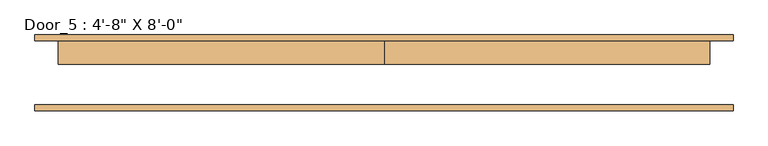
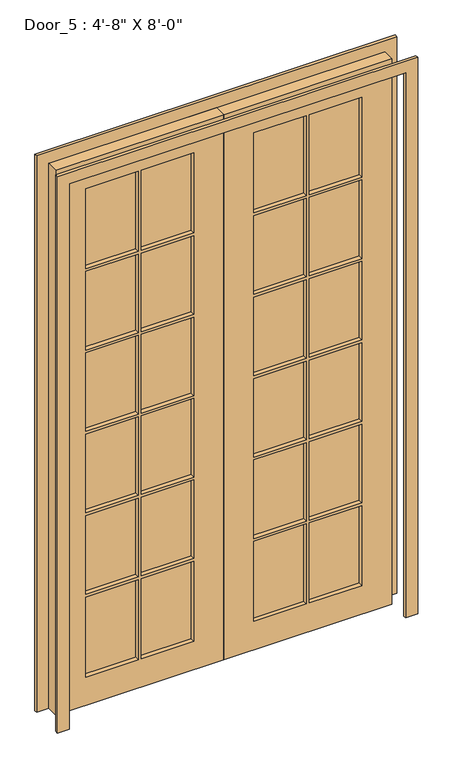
"""IFC4 building model written with IfcOpenShell, lengths in millimetres: door geometry."""

import ifcopenshell
import ifcopenshell.guid

model = None  # the IFC model being written
_history = None  # IfcOwnerHistory: only IFC2X3 demands one
_inside = {}  # id of a spatial element -> (the spatial element, [elements in it])
_under = {}  # id of a project, library or spatial element -> (it, [spatial elements below it])
_declared = {}  # id of a project -> (the project, [libraries it declares])
_typed = {}  # id of a type object -> (the type object, [elements of that type])
_made_of = {}  # id of a material, layer set ... -> (it, [elements and type objects made of it])


def new_model(schema):
    """Start an empty IFC model of exactly this schema.

    Asked for "IFC4X3", IfcOpenShell would pick the latest addendum, in which some entities
    have other attributes; the version numbers below select the first issue.
    IFC2X3 requires an IfcOwnerHistory on every rooted entity: one is made here for all.
    """
    global model, _history
    if schema == "IFC4X3":
        model = ifcopenshell.file(schema_version=(4, 3, 0, 0))
    else:
        model = ifcopenshell.file(schema=schema)
    _inside.clear()
    _under.clear()
    _declared.clear()
    _typed.clear()
    _made_of.clear()
    _history = None
    if model.schema == "IFC2X3":
        org = make("IfcOrganization", Name="unknown")
        user = make(
            "IfcPersonAndOrganization",
            ThePerson=make("IfcPerson", FamilyName="unknown"),
            TheOrganization=org,
        )
        app = make(
            "IfcApplication",
            ApplicationDeveloper=org,
            Version="unknown",
            ApplicationFullName="unknown",
            ApplicationIdentifier="unknown",
        )
        _history = make(
            "IfcOwnerHistory",
            OwningUser=user,
            OwningApplication=app,
            ChangeAction="ADDED",
            CreationDate=0,
        )
    return model


def make(cls, **values):
    """One entity of the class cls with the attributes given. An attribute that is None is left unset."""
    return model.create_entity(
        cls, **{name: value for name, value in values.items() if value is not None}
    )


def rooted(cls, **values):
    """An entity with a GlobalId (a new one), such as an element, a storey or a relation."""
    return make(cls, GlobalId=ifcopenshell.guid.new(), OwnerHistory=_history, **values)


def si_unit(unit_type, name, prefix=None):
    """IfcSIUnit, for example si_unit("LENGTHUNIT", "METRE", prefix="MILLI")."""
    return make("IfcSIUnit", UnitType=unit_type, Prefix=prefix, Name=name)


def assignment(units):
    """IfcUnitAssignment: the units of a project."""
    return None if units is None else make("IfcUnitAssignment", Units=units)


def point(xyz):
    """IfcCartesianPoint."""
    return None if xyz is None else make("IfcCartesianPoint", Coordinates=xyz)


def direction(xyz):
    """IfcDirection."""
    return None if xyz is None else make("IfcDirection", DirectionRatios=xyz)


def frame(location, z_axis=None, x_axis=None):
    """IfcAxis2Placement3D, a coordinate frame: its origin and axes. An axis left out is left unset."""
    return make(
        "IfcAxis2Placement3D",
        Location=point(location),
        Axis=direction(z_axis),
        RefDirection=direction(x_axis),
    )


def origin():
    """The frame at (0, 0, 0) with its axes left unset."""
    return frame((0.0, 0.0, 0.0))


def place(relative_to, where):
    """IfcLocalPlacement: puts the frame where relative to a parent placement (None: the world)."""
    return make(
        "IfcLocalPlacement", PlacementRelTo=relative_to, RelativePlacement=where
    )


def context(
    kind, dimensions, precision=None, world=None, true_north=None, identifier=None
):
    """IfcGeometricRepresentationContext, for example the 3D "Model" context."""
    return make(
        "IfcGeometricRepresentationContext",
        ContextIdentifier=identifier,
        ContextType=kind,
        CoordinateSpaceDimension=dimensions,
        Precision=precision,
        WorldCoordinateSystem=world,
        TrueNorth=true_north,
    )


def project(units=None, contexts=None):
    """IfcProject with its units and contexts."""
    return rooted(
        "IfcProject",
        Name="project",
        RepresentationContexts=contexts,
        UnitsInContext=assignment(units),
    )


def spatial(cls, under=None, at=None, **own):
    """A site, building, storey or space (cls), placed at a placement, below another one or the project."""
    s = rooted(cls, ObjectPlacement=at, **own)
    if under is not None:
        _under.setdefault(under.id(), (under, []))[1].append(s)
    return s


def polyline(points):
    """IfcPolyline through the points."""
    return make("IfcPolyline", Points=[point(p) for p in points])


def outline(outer, holes=None, kind="AREA"):
    """IfcArbitraryClosedProfileDef: a profile drawn as a closed curve; with holes, ...WithVoids."""
    if holes is None:
        return make("IfcArbitraryClosedProfileDef", ProfileType=kind, OuterCurve=outer)
    return make(
        "IfcArbitraryProfileDefWithVoids",
        ProfileType=kind,
        OuterCurve=outer,
        InnerCurves=holes,
    )


def extrude(swept, where, along, depth):
    """IfcExtrudedAreaSolid: the profile swept, set in the frame where, extruded along a direction by depth."""
    return make(
        "IfcExtrudedAreaSolid",
        SweptArea=swept,
        Position=where,
        ExtrudedDirection=direction(along),
        Depth=depth,
    )


def shape(context_of_items, identifier, shape_type, items):
    """IfcShapeRepresentation: the items that make up one representation, for example the "Body"."""
    return make(
        "IfcShapeRepresentation",
        ContextOfItems=context_of_items,
        RepresentationIdentifier=identifier,
        RepresentationType=shape_type,
        Items=items,
    )


def source(mapping_origin, context_of_items, identifier, shape_type, items):
    """IfcRepresentationMap: a shape defined once, which mapped items show again and again."""
    return make(
        "IfcRepresentationMap",
        MappingOrigin=mapping_origin,
        MappedRepresentation=shape(context_of_items, identifier, shape_type, items),
    )


def transform(
    local_origin,
    x_axis=None,
    y_axis=None,
    z_axis=None,
    scale=None,
    scale2=None,
    scale3=None,
    uniform=True,
):
    """IfcCartesianTransformationOperator3D, or its non-uniform kind. x_axis, y_axis, z_axis: its Axis1, 2, 3."""
    if uniform:
        return make(
            "IfcCartesianTransformationOperator3D",
            Axis1=direction(x_axis),
            Axis2=direction(y_axis),
            LocalOrigin=point(local_origin),
            Scale=scale,
            Axis3=direction(z_axis),
        )
    return make(
        "IfcCartesianTransformationOperator3DnonUniform",
        Axis1=direction(x_axis),
        Axis2=direction(y_axis),
        LocalOrigin=point(local_origin),
        Scale=scale,
        Axis3=direction(z_axis),
        Scale2=scale2,
        Scale3=scale3,
    )


def mapped(mapping_source, mapping_target):
    """IfcMappedItem: shows the shape of a source again, moved by a transform."""
    return make(
        "IfcMappedItem", MappingSource=mapping_source, MappingTarget=mapping_target
    )


def made_of(thing, what):
    """Note that an element or type object is made of a material, layer set ...; save() writes the relation."""
    if what is not None:
        _made_of.setdefault(what.id(), (what, []))[1].append(thing)
    return thing


def element(
    cls,
    number,
    at=None,
    inside=None,
    cuts=None,
    type_object=None,
    material=None,
    context=None,
    identifier="Body",
    shape_type=None,
    held_by="IfcProductDefinitionShape",
    body=None,
    shapes=None,
    **own,
):
    """One element of the class cls, such as IfcWall. Its Tag is "e" and its number.

    at: its placement. inside: the storey or other place that contains it. cuts: it is an
    opening in that element (IfcRelVoidsElement). A single representation is given by context,
    identifier, shape_type and body (its items); several are given by shapes. held_by: the class
    of the entity that holds the representations. save() writes the other relations.
    """
    e = rooted(cls, Tag="e%d" % number, ObjectPlacement=at, **own)
    if body is not None:
        shapes = [shape(context, identifier, shape_type, body)]
    if shapes is not None:
        e.Representation = make(held_by, Representations=shapes)
    if inside is not None:
        _inside.setdefault(inside.id(), (inside, []))[1].append(e)
    if cuts is not None:
        rooted(
            "IfcRelVoidsElement", RelatingBuildingElement=cuts, RelatedOpeningElement=e
        )
    if type_object is not None:
        _typed.setdefault(type_object.id(), (type_object, []))[1].append(e)
    return made_of(e, material)


def aggregate(whole, parts):
    """IfcRelAggregates: a whole, such as a stair, and the parts it consists of."""
    return rooted("IfcRelAggregates", RelatingObject=whole, RelatedObjects=parts)


def save(model, path):
    """Write the relations noted so far, then the file.

    IfcRelAggregates (storeys below a building ...), IfcRelContainedInSpatialStructure (elements
    in a storey), IfcRelDefinesByType, IfcRelAssociatesMaterial and IfcRelDeclares: one each for
    every whole, place, type object, material and project.
    """
    for whole, parts in _under.values():
        aggregate(whole, parts)
    for where, things in _inside.values():
        rooted(
            "IfcRelContainedInSpatialStructure",
            RelatedElements=things,
            RelatingStructure=where,
        )
    for kind, things in _typed.values():
        rooted("IfcRelDefinesByType", RelatedObjects=things, RelatingType=kind)
    for what, things in _made_of.values():
        rooted("IfcRelAssociatesMaterial", RelatedObjects=things, RelatingMaterial=what)
    for by, libraries in _declared.values():
        rooted("IfcRelDeclares", RelatingContext=by, RelatedDefinitions=libraries)
    model.write(path)


def door_d479302f(model_context):
    return source(origin(), model_context, "Body", "SweptSolid", [
        extrude(outline(polyline([(-584.2, 53.18125), (-361.95, 53.18125), (-361.95, 40.48125), (-584.2, 40.48125), (-584.2, 53.18125)])), frame((0.0, 0.0, 1953.6833333), z_axis=(0.0, 0.0, 1.0), x_axis=(1.0, 0.0, 0.0)), (0.0, 0.0, 1.0), 357.7166667),
        extrude(outline(polyline([(-584.2, 53.18125), (-361.95, 53.18125), (-361.95, 40.48125), (-584.2, 40.48125), (-584.2, 53.18125)])), frame((0.0, 0.0, 127.0), z_axis=(0.0, 0.0, 1.0), x_axis=(1.0, 0.0, 0.0)), (0.0, 0.0, 1.0), 357.7166667),
        extrude(outline(polyline([(-349.25, 53.18125), (-127.0, 53.18125), (-127.0, 40.48125), (-349.25, 40.48125), (-349.25, 53.18125)])), frame((0.0, 0.0, 1953.6833333), z_axis=(0.0, 0.0, 1.0), x_axis=(1.0, 0.0, 0.0)), (0.0, 0.0, 1.0), 357.7166667),
        extrude(outline(polyline([(-349.25, 53.18125), (-127.0, 53.18125), (-127.0, 40.48125), (-349.25, 40.48125), (-349.25, 53.18125)])), frame((0.0, 0.0, 1589.6166667), z_axis=(0.0, 0.0, 1.0), x_axis=(1.0, 0.0, 0.0)), (0.0, 0.0, 1.0), 351.3666667),
        extrude(outline(polyline([(-349.25, 53.18125), (-127.0, 53.18125), (-127.0, 40.48125), (-349.25, 40.48125), (-349.25, 53.18125)])), frame((0.0, 0.0, 1225.55), z_axis=(0.0, 0.0, 1.0), x_axis=(1.0, 0.0, 0.0)), (0.0, 0.0, 1.0), 351.3666667),
        extrude(outline(polyline([(-584.2, 53.18125), (-361.95, 53.18125), (-361.95, 40.48125), (-584.2, 40.48125), (-584.2, 53.18125)])), frame((0.0, 0.0, 1589.6166667), z_axis=(0.0, 0.0, 1.0), x_axis=(1.0, 0.0, 0.0)), (0.0, 0.0, 1.0), 351.3666667),
        extrude(outline(polyline([(-349.25, 53.18125), (-127.0, 53.18125), (-127.0, 40.48125), (-349.25, 40.48125), (-349.25, 53.18125)])), frame((0.0, 0.0, 861.4833333), z_axis=(0.0, 0.0, 1.0), x_axis=(1.0, 0.0, 0.0)), (0.0, 0.0, 1.0), 351.3666667),
        extrude(outline(polyline([(-584.2, 53.18125), (-361.95, 53.18125), (-361.95, 40.48125), (-584.2, 40.48125), (-584.2, 53.18125)])), frame((0.0, 0.0, 1225.55), z_axis=(0.0, 0.0, 1.0), x_axis=(1.0, 0.0, 0.0)), (0.0, 0.0, 1.0), 351.3666667),
        extrude(outline(polyline([(-349.25, 53.18125), (-127.0, 53.18125), (-127.0, 40.48125), (-349.25, 40.48125), (-349.25, 53.18125)])), frame((0.0, 0.0, 497.4166667), z_axis=(0.0, 0.0, 1.0), x_axis=(1.0, 0.0, 0.0)), (0.0, 0.0, 1.0), 351.3666667),
        extrude(outline(polyline([(-584.2, 53.18125), (-361.95, 53.18125), (-361.95, 40.48125), (-584.2, 40.48125), (-584.2, 53.18125)])), frame((0.0, 0.0, 861.4833333), z_axis=(0.0, 0.0, 1.0), x_axis=(1.0, 0.0, 0.0)), (0.0, 0.0, 1.0), 351.3666667),
        extrude(outline(polyline([(-349.25, 53.18125), (-127.0, 53.18125), (-127.0, 40.48125), (-349.25, 40.48125), (-349.25, 53.18125)])), frame((0.0, 0.0, 127.0), z_axis=(0.0, 0.0, 1.0), x_axis=(1.0, 0.0, 0.0)), (0.0, 0.0, 1.0), 357.7166667),
        extrude(outline(polyline([(-584.2, 53.18125), (-361.95, 53.18125), (-361.95, 40.48125), (-584.2, 40.48125), (-584.2, 53.18125)])), frame((0.0, 0.0, 497.4166667), z_axis=(0.0, 0.0, 1.0), x_axis=(1.0, 0.0, 0.0)), (0.0, 0.0, 1.0), 351.3666667),
        extrude(outline(polyline([(127.0, 53.18125), (349.25, 53.18125), (349.25, 40.48125), (127.0, 40.48125), (127.0, 53.18125)])), frame((0.0, 0.0, 1953.6833333), z_axis=(0.0, 0.0, 1.0), x_axis=(1.0, 0.0, 0.0)), (0.0, 0.0, 1.0), 357.7166667),
        extrude(outline(polyline([(127.0, 53.18125), (349.25, 53.18125), (349.25, 40.48125), (127.0, 40.48125), (127.0, 53.18125)])), frame((0.0, 0.0, 127.0), z_axis=(0.0, 0.0, 1.0), x_axis=(1.0, 0.0, 0.0)), (0.0, 0.0, 1.0), 357.7166667),
        extrude(outline(polyline([(361.95, 53.18125), (584.2, 53.18125), (584.2, 40.48125), (361.95, 40.48125), (361.95, 53.18125)])), frame((0.0, 0.0, 1953.6833333), z_axis=(0.0, 0.0, 1.0), x_axis=(1.0, 0.0, 0.0)), (0.0, 0.0, 1.0), 357.7166667),
        extrude(outline(polyline([(361.95, 53.18125), (584.2, 53.18125), (584.2, 40.48125), (361.95, 40.48125), (361.95, 53.18125)])), frame((0.0, 0.0, 1589.6166667), z_axis=(0.0, 0.0, 1.0), x_axis=(1.0, 0.0, 0.0)), (0.0, 0.0, 1.0), 351.3666667),
        extrude(outline(polyline([(361.95, 53.18125), (584.2, 53.18125), (584.2, 40.48125), (361.95, 40.48125), (361.95, 53.18125)])), frame((0.0, 0.0, 1225.55), z_axis=(0.0, 0.0, 1.0), x_axis=(1.0, 0.0, 0.0)), (0.0, 0.0, 1.0), 351.3666667),
        extrude(outline(polyline([(127.0, 53.18125), (349.25, 53.18125), (349.25, 40.48125), (127.0, 40.48125), (127.0, 53.18125)])), frame((0.0, 0.0, 1589.6166667), z_axis=(0.0, 0.0, 1.0), x_axis=(1.0, 0.0, 0.0)), (0.0, 0.0, 1.0), 351.3666667),
        extrude(outline(polyline([(361.95, 53.18125), (584.2, 53.18125), (584.2, 40.48125), (361.95, 40.48125), (361.95, 53.18125)])), frame((0.0, 0.0, 861.4833333), z_axis=(0.0, 0.0, 1.0), x_axis=(1.0, 0.0, 0.0)), (0.0, 0.0, 1.0), 351.3666667),
        extrude(outline(polyline([(127.0, 53.18125), (349.25, 53.18125), (349.25, 40.48125), (127.0, 40.48125), (127.0, 53.18125)])), frame((0.0, 0.0, 1225.55), z_axis=(0.0, 0.0, 1.0), x_axis=(1.0, 0.0, 0.0)), (0.0, 0.0, 1.0), 351.3666667),
        extrude(outline(polyline([(361.95, 53.18125), (584.2, 53.18125), (584.2, 40.48125), (361.95, 40.48125), (361.95, 53.18125)])), frame((0.0, 0.0, 497.4166667), z_axis=(0.0, 0.0, 1.0), x_axis=(1.0, 0.0, 0.0)), (0.0, 0.0, 1.0), 351.3666667),
        extrude(outline(polyline([(127.0, 53.18125), (349.25, 53.18125), (349.25, 40.48125), (127.0, 40.48125), (127.0, 53.18125)])), frame((0.0, 0.0, 861.4833333), z_axis=(0.0, 0.0, 1.0), x_axis=(1.0, 0.0, 0.0)), (0.0, 0.0, 1.0), 351.3666667),
        extrude(outline(polyline([(361.95, 53.18125), (584.2, 53.18125), (584.2, 40.48125), (361.95, 40.48125), (361.95, 53.18125)])), frame((0.0, 0.0, 127.0), z_axis=(0.0, 0.0, 1.0), x_axis=(1.0, 0.0, 0.0)), (0.0, 0.0, 1.0), 357.7166667),
        extrude(outline(polyline([(127.0, 53.18125), (349.25, 53.18125), (349.25, 40.48125), (127.0, 40.48125), (127.0, 53.18125)])), frame((0.0, 0.0, 497.4166667), z_axis=(0.0, 0.0, 1.0), x_axis=(1.0, 0.0, 0.0)), (0.0, 0.0, 1.0), 351.3666667),
        extrude(outline(polyline([(0.0, 762.0), (2489.2, 762.0), (2489.2, -762.0), (0.0, -762.0), (0.0, -711.2), (2438.4, -711.2), (2438.4, 711.2), (0.0, 711.2), (0.0, 762.0)])), frame((0.0, 72.23125, 0.0), z_axis=(0.0, 1.0, 0.0), x_axis=(0.0, 0.0, 1.0)), (0.0, 0.0, 1.0), 12.7),
        extrude(outline(polyline([(2438.4, -711.2), (0.0, -711.2), (0.0, 0.0), (2438.4, 0.0), (2438.4, -711.2)]), holes=[polyline([(2311.4, -361.95), (1953.6833333, -361.95), (1953.6833333, -584.2), (2311.4, -584.2), (2311.4, -361.95)]), polyline([(127.0, -361.95), (127.0, -584.2), (484.7166667, -584.2), (484.7166667, -361.95), (127.0, -361.95)]), polyline([(1953.6833333, -127.0), (1953.6833333, -349.25), (2311.4, -349.25), (2311.4, -127.0), (1953.6833333, -127.0)]), polyline([(1940.9833333, -349.25), (1940.9833333, -127.0), (1589.6166667, -127.0), (1589.6166667, -349.25), (1940.9833333, -349.25)]), polyline([(1576.9166667, -349.25), (1576.9166667, -127.0), (1225.55, -127.0), (1225.55, -349.25), (1576.9166667, -349.25)]), polyline([(1589.6166667, -361.95), (1589.6166667, -584.2), (1940.9833333, -584.2), (1940.9833333, -361.95), (1589.6166667, -361.95)]), polyline([(1212.85, -349.25), (1212.85, -127.0), (861.4833333, -127.0), (861.4833333, -349.25), (1212.85, -349.25)]), polyline([(1225.55, -361.95), (1225.55, -584.2), (1576.9166667, -584.2), (1576.9166667, -361.95), (1225.55, -361.95)]), polyline([(848.7833333, -349.25), (848.7833333, -127.0), (497.4166667, -127.0), (497.4166667, -349.25), (848.7833333, -349.25)]), polyline([(861.4833333, -361.95), (861.4833333, -584.2), (1212.85, -584.2), (1212.85, -361.95), (861.4833333, -361.95)]), polyline([(484.7166667, -349.25), (484.7166667, -127.0), (127.0, -127.0), (127.0, -349.25), (484.7166667, -349.25)]), polyline([(497.4166667, -361.95), (497.4166667, -584.2), (848.7833333, -584.2), (848.7833333, -361.95), (497.4166667, -361.95)])]), frame((0.0, 21.43125, 0.0), z_axis=(0.0, 1.0, 0.0), x_axis=(0.0, 0.0, 1.0)), (0.0, 0.0, 1.0), 50.8),
        extrude(outline(polyline([(0.0, 762.0), (2489.2, 762.0), (2489.2, -762.0), (0.0, -762.0), (0.0, -711.2), (2438.4, -711.2), (2438.4, 711.2), (0.0, 711.2), (0.0, 762.0)])), frame((0.0, -80.16875, 0.0), z_axis=(0.0, 1.0, 0.0), x_axis=(0.0, 0.0, 1.0)), (0.0, 0.0, 1.0), 12.7),
        extrude(outline(polyline([(2438.4, 711.2), (2438.4, 0.0), (0.0, 0.0), (0.0, 711.2), (2438.4, 711.2)]), holes=[polyline([(2311.4, 349.25), (1953.6833333, 349.25), (1953.6833333, 127.0), (2311.4, 127.0), (2311.4, 349.25)]), polyline([(127.0, 349.25), (127.0, 127.0), (484.7166667, 127.0), (484.7166667, 349.25), (127.0, 349.25)]), polyline([(1953.6833333, 584.2), (1953.6833333, 361.95), (2311.4, 361.95), (2311.4, 584.2), (1953.6833333, 584.2)]), polyline([(1940.9833333, 361.95), (1940.9833333, 584.2), (1589.6166667, 584.2), (1589.6166667, 361.95), (1940.9833333, 361.95)]), polyline([(1576.9166667, 361.95), (1576.9166667, 584.2), (1225.55, 584.2), (1225.55, 361.95), (1576.9166667, 361.95)]), polyline([(1589.6166667, 349.25), (1589.6166667, 127.0), (1940.9833333, 127.0), (1940.9833333, 349.25), (1589.6166667, 349.25)]), polyline([(1212.85, 361.95), (1212.85, 584.2), (861.4833333, 584.2), (861.4833333, 361.95), (1212.85, 361.95)]), polyline([(1225.55, 349.25), (1225.55, 127.0), (1576.9166667, 127.0), (1576.9166667, 349.25), (1225.55, 349.25)]), polyline([(848.7833333, 361.95), (848.7833333, 584.2), (497.4166667, 584.2), (497.4166667, 361.95), (848.7833333, 361.95)]), polyline([(861.4833333, 349.25), (861.4833333, 127.0), (1212.85, 127.0), (1212.85, 349.25), (861.4833333, 349.25)]), polyline([(484.7166667, 361.95), (484.7166667, 584.2), (127.0, 584.2), (127.0, 361.95), (484.7166667, 361.95)]), polyline([(497.4166667, 349.25), (497.4166667, 127.0), (848.7833333, 127.0), (848.7833333, 349.25), (497.4166667, 349.25)])]), frame((0.0, 21.43125, 0.0), z_axis=(0.0, 1.0, 0.0), x_axis=(0.0, 0.0, 1.0)), (0.0, 0.0, 1.0), 50.8),
    ])


if __name__ == "__main__":
    model = new_model("IFC4")
    model_context = context("Model", 3, world=origin())
    ifc_project = project(units=[si_unit("LENGTHUNIT", "METRE", prefix="MILLI")], contexts=[model_context])
    site = spatial("IfcSite", under=ifc_project)
    building = spatial("IfcBuilding", under=site)
    placement = place(None, origin())
    door_shape = door_d479302f(model_context)
    element("IfcDoor", 1, ObjectType="Door_5 : 4'-8\" X 8'-0\"", at=placement, inside=building, context=model_context, shape_type="MappedRepresentation", body=[
        mapped(door_shape, transform((0.0, 0.0, 0.0), x_axis=(1.0, 0.0, 0.0), y_axis=(0.0, 1.0, 0.0), z_axis=(0.0, 0.0, 1.0))),
    ])
    save(model, "model.ifc")
